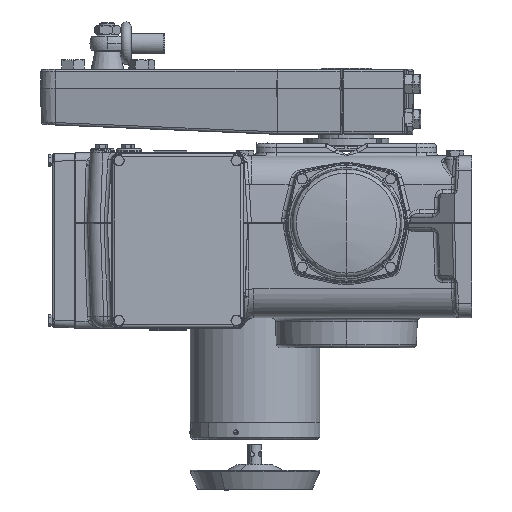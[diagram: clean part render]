
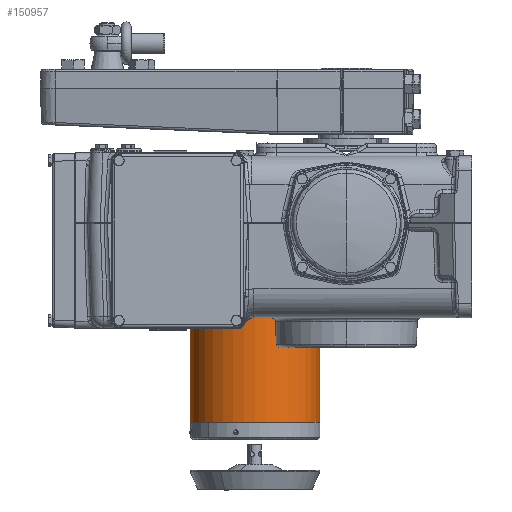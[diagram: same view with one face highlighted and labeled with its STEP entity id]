
A CAD part, left-side view. The second image highlights one B-rep face of the part: STEP entity #150957.
In plain terms, the highlighted cylindrical face has radius 82.55 mm (diameter 165.1 mm), a partial arc.
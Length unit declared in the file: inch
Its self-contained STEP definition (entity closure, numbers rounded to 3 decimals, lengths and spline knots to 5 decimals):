
#22617 = EDGE_LOOP ( 'NONE', ( #59417, #59423, #59427, #59425 ) ) ;
#32831 = CARTESIAN_POINT ( 'NONE',  ( 10.878, 1.322, -10.07525 ) ) ;
#32833 = DIRECTION ( 'NONE',  ( 0., 0., -1. ) ) ;
#32842 = CARTESIAN_POINT ( 'NONE',  ( 10.878, 7.822, -10.07525 ) ) ;
#32844 = DIRECTION ( 'NONE',  ( 0., 0., -1. ) ) ;
#59417 = ORIENTED_EDGE ( 'NONE', *, *, #118385, .F. ) ;
#59423 = ORIENTED_EDGE ( 'NONE', *, *, #150905, .T. ) ;
#59425 = ORIENTED_EDGE ( 'NONE', *, *, #150903, .F. ) ;
#59427 = ORIENTED_EDGE ( 'NONE', *, *, #118382, .F. ) ;
#60169 = AXIS2_PLACEMENT_3D ( 'NONE', #129841, #129842, #129844 ) ;
#60170 = AXIS2_PLACEMENT_3D ( 'NONE', #129849, #129850, #129852 ) ;
#78395 = VECTOR ( 'NONE', #32833, 39.37008 ) ;
#78404 = LINE ( 'NONE', #32842, #80510 ) ;
#78750 = CYLINDRICAL_SURFACE ( 'NONE', #116809, 3.25 ) ;
#78776 = FACE_OUTER_BOUND ( 'NONE', #22617, .T. ) ;
#78808 = LINE ( 'NONE', #32831, #78395 ) ;
#80510 = VECTOR ( 'NONE', #32844, 39.37008 ) ;
#85972 = VERTEX_POINT ( 'NONE', #166090 ) ;
#85974 = VERTEX_POINT ( 'NONE', #166093 ) ;
#85976 = VERTEX_POINT ( 'NONE', #166096 ) ;
#85992 = VERTEX_POINT ( 'NONE', #166119 ) ;
#100692 = CARTESIAN_POINT ( 'NONE',  ( 10.878, 4.572, -10.07525 ) ) ;
#100693 = DIRECTION ( 'NONE',  ( 0., 0., -1. ) ) ;
#100694 = DIRECTION ( 'NONE',  ( 0., -1., 0. ) ) ;
#116809 = AXIS2_PLACEMENT_3D ( 'NONE', #100692, #100693, #100694 ) ;
#118382 = EDGE_CURVE ( 'NONE', #85992, #85972, #142130, .T. ) ;
#118385 = EDGE_CURVE ( 'NONE', #85976, #85974, #142134, .T. ) ;
#129841 = CARTESIAN_POINT ( 'NONE',  ( 10.878, 4.572, -10.044 ) ) ;
#129842 = DIRECTION ( 'NONE',  ( 0., 0., -1. ) ) ;
#129844 = DIRECTION ( 'NONE',  ( 0., 1., 0. ) ) ;
#129849 = CARTESIAN_POINT ( 'NONE',  ( 10.878, 4.572, -3.294 ) ) ;
#129850 = DIRECTION ( 'NONE',  ( 0., 0., 1. ) ) ;
#129852 = DIRECTION ( 'NONE',  ( 0., -1., 0. ) ) ;
#142130 = CIRCLE ( 'NONE', #60169, 3.25 ) ;
#142134 = CIRCLE ( 'NONE', #60170, 3.25 ) ;
#150903 = EDGE_CURVE ( 'NONE', #85974, #85992, #78808, .T. ) ;
#150905 = EDGE_CURVE ( 'NONE', #85976, #85972, #78404, .T. ) ;
#150957 = ADVANCED_FACE ( 'NONE', ( #78776 ), #78750, .T. ) ;
#166090 = CARTESIAN_POINT ( 'NONE',  ( 10.878, 7.822, -10.044 ) ) ;
#166093 = CARTESIAN_POINT ( 'NONE',  ( 10.878, 1.322, -3.294 ) ) ;
#166096 = CARTESIAN_POINT ( 'NONE',  ( 10.878, 7.822, -3.294 ) ) ;
#166119 = CARTESIAN_POINT ( 'NONE',  ( 10.878, 1.322, -10.044 ) ) ;
